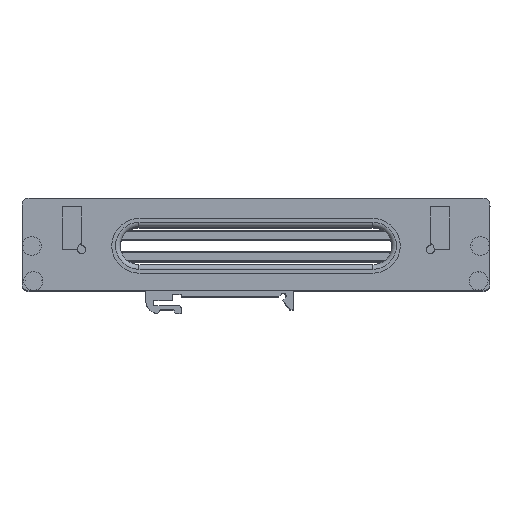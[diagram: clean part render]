
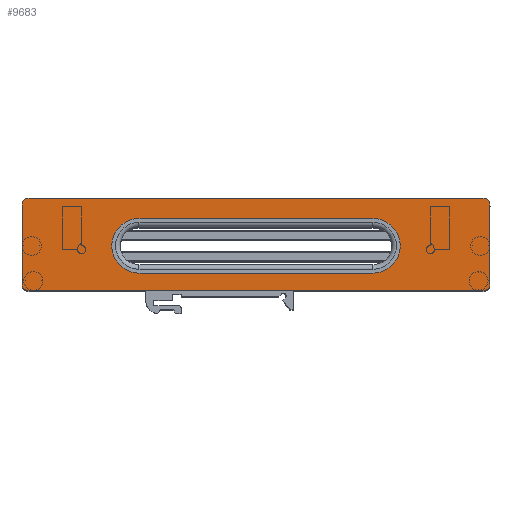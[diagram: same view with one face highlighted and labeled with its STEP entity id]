
A CAD part, top view. The second image highlights one B-rep face of the part: STEP entity #9683.
In plain terms, the highlighted planar face has unit normal (0, 0, 1).
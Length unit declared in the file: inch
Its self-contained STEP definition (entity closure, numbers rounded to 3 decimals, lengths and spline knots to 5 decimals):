
#2508=DIRECTION('',(0.,1.,0.));
#2509=VECTOR('',#2508,1.008);
#2510=CARTESIAN_POINT('',(3.,-0.50421,0.135));
#2511=LINE('',#2510,#2509);
#2512=CARTESIAN_POINT('',(2.91,-0.50421,0.135));
#2513=DIRECTION('',(0.,0.,1.));
#2514=DIRECTION('',(0.,-1.,0.));
#2515=AXIS2_PLACEMENT_3D('',#2512,#2513,#2514);
#2517=DIRECTION('',(1.,0.,0.));
#2518=VECTOR('',#2517,5.82);
#2519=CARTESIAN_POINT('',(-2.91,-0.59421,0.135));
#2520=LINE('',#2519,#2518);
#2521=CARTESIAN_POINT('',(-2.91,-0.50421,0.135));
#2522=DIRECTION('',(0.,0.,1.));
#2523=DIRECTION('',(-1.,0.,0.));
#2524=AXIS2_PLACEMENT_3D('',#2521,#2522,#2523);
#2526=DIRECTION('',(0.,-1.,0.));
#2527=VECTOR('',#2526,1.008);
#2528=CARTESIAN_POINT('',(-3.,0.50379,0.135));
#2529=LINE('',#2528,#2527);
#2530=CARTESIAN_POINT('',(-2.91,0.50379,0.135));
#2531=DIRECTION('',(0.,0.,1.));
#2532=DIRECTION('',(0.,1.,0.));
#2533=AXIS2_PLACEMENT_3D('',#2530,#2531,#2532);
#2535=DIRECTION('',(-1.,0.,0.));
#2536=VECTOR('',#2535,5.82);
#2537=CARTESIAN_POINT('',(2.91,0.59379,0.135));
#2538=LINE('',#2537,#2536);
#2539=CARTESIAN_POINT('',(2.91,0.50379,0.135));
#2540=DIRECTION('',(0.,0.,1.));
#2541=DIRECTION('',(1.,0.,0.));
#2542=AXIS2_PLACEMENT_3D('',#2539,#2540,#2541);
#2544=CARTESIAN_POINT('',(-1.5,-0.01921,0.135));
#2545=DIRECTION('',(0.,0.,1.));
#2546=DIRECTION('',(0.,1.,0.));
#2547=AXIS2_PLACEMENT_3D('',#2544,#2545,#2546);
#2549=DIRECTION('',(1.,0.,0.));
#2550=VECTOR('',#2549,3.);
#2551=CARTESIAN_POINT('',(-1.5,-0.36921,0.135));
#2552=LINE('',#2551,#2550);
#2553=CARTESIAN_POINT('',(1.5,-0.01921,0.135));
#2554=DIRECTION('',(0.,0.,1.));
#2555=DIRECTION('',(0.,-1.,0.));
#2556=AXIS2_PLACEMENT_3D('',#2553,#2554,#2555);
#2558=DIRECTION('',(-1.,0.,0.));
#2559=VECTOR('',#2558,3.);
#2560=CARTESIAN_POINT('',(1.5,0.33079,0.135));
#2561=LINE('',#2560,#2559);
#5983=CARTESIAN_POINT('',(3.,-0.50421,0.135));
#5984=CARTESIAN_POINT('',(3.,0.50379,0.135));
#5985=VERTEX_POINT('',#5983);
#5986=VERTEX_POINT('',#5984);
#5987=CARTESIAN_POINT('',(2.91,0.59379,0.135));
#5988=VERTEX_POINT('',#5987);
#5989=CARTESIAN_POINT('',(-2.91,0.59379,0.135));
#5990=VERTEX_POINT('',#5989);
#5991=CARTESIAN_POINT('',(-3.,0.50379,0.135));
#5992=VERTEX_POINT('',#5991);
#5993=CARTESIAN_POINT('',(-3.,-0.50421,0.135));
#5994=VERTEX_POINT('',#5993);
#5995=CARTESIAN_POINT('',(-2.91,-0.59421,0.135));
#5996=VERTEX_POINT('',#5995);
#5997=CARTESIAN_POINT('',(2.91,-0.59421,0.135));
#5998=VERTEX_POINT('',#5997);
#5999=CARTESIAN_POINT('',(-1.5,0.33079,0.135));
#6000=CARTESIAN_POINT('',(-1.5,-0.36921,0.135));
#6001=VERTEX_POINT('',#5999);
#6002=VERTEX_POINT('',#6000);
#6003=CARTESIAN_POINT('',(1.5,-0.36921,0.135));
#6004=VERTEX_POINT('',#6003);
#6005=CARTESIAN_POINT('',(1.5,0.33079,0.135));
#6006=VERTEX_POINT('',#6005);
#9658=CARTESIAN_POINT('',(-3.,-0.00021,0.135));
#9659=DIRECTION('',(0.,0.,1.));
#9660=DIRECTION('',(0.,1.,0.));
#9661=AXIS2_PLACEMENT_3D('',#9658,#9659,#9660);
#9662=PLANE('',#9661);
#9663=ORIENTED_EDGE('',*,*,#9624,.F.);
#9664=ORIENTED_EDGE('',*,*,#9638,.F.);
#9665=ORIENTED_EDGE('',*,*,#9651,.F.);
#9666=ORIENTED_EDGE('',*,*,#9553,.F.);
#9667=ORIENTED_EDGE('',*,*,#9568,.F.);
#9668=ORIENTED_EDGE('',*,*,#9582,.F.);
#9669=ORIENTED_EDGE('',*,*,#9596,.F.);
#9670=ORIENTED_EDGE('',*,*,#9610,.F.);
#9671=EDGE_LOOP('',(#9663,#9664,#9665,#9666,#9667,#9668,#9669,#9670));
#9672=FACE_OUTER_BOUND('',#9671,.F.);
#9674=ORIENTED_EDGE('',*,*,#9673,.T.);
#9676=ORIENTED_EDGE('',*,*,#9675,.T.);
#9678=ORIENTED_EDGE('',*,*,#9677,.T.);
#9680=ORIENTED_EDGE('',*,*,#9679,.T.);
#9681=EDGE_LOOP('',(#9674,#9676,#9678,#9680));
#9682=FACE_BOUND('',#9681,.F.);
#9683=ADVANCED_FACE('',(#9672,#9682),#9662,.T.);
#2516=CIRCLE('',#2515,0.09);
#2525=CIRCLE('',#2524,0.09);
#2534=CIRCLE('',#2533,0.09);
#2543=CIRCLE('',#2542,0.09);
#2548=CIRCLE('',#2547,0.35);
#2557=CIRCLE('',#2556,0.35);
#9553=EDGE_CURVE('',#5994,#5996,#2525,.T.);
#9568=EDGE_CURVE('',#5992,#5994,#2529,.T.);
#9582=EDGE_CURVE('',#5990,#5992,#2534,.T.);
#9596=EDGE_CURVE('',#5988,#5990,#2538,.T.);
#9610=EDGE_CURVE('',#5986,#5988,#2543,.T.);
#9624=EDGE_CURVE('',#5985,#5986,#2511,.T.);
#9638=EDGE_CURVE('',#5998,#5985,#2516,.T.);
#9651=EDGE_CURVE('',#5996,#5998,#2520,.T.);
#9673=EDGE_CURVE('',#6001,#6002,#2548,.T.);
#9675=EDGE_CURVE('',#6002,#6004,#2552,.T.);
#9677=EDGE_CURVE('',#6004,#6006,#2557,.T.);
#9679=EDGE_CURVE('',#6006,#6001,#2561,.T.);
